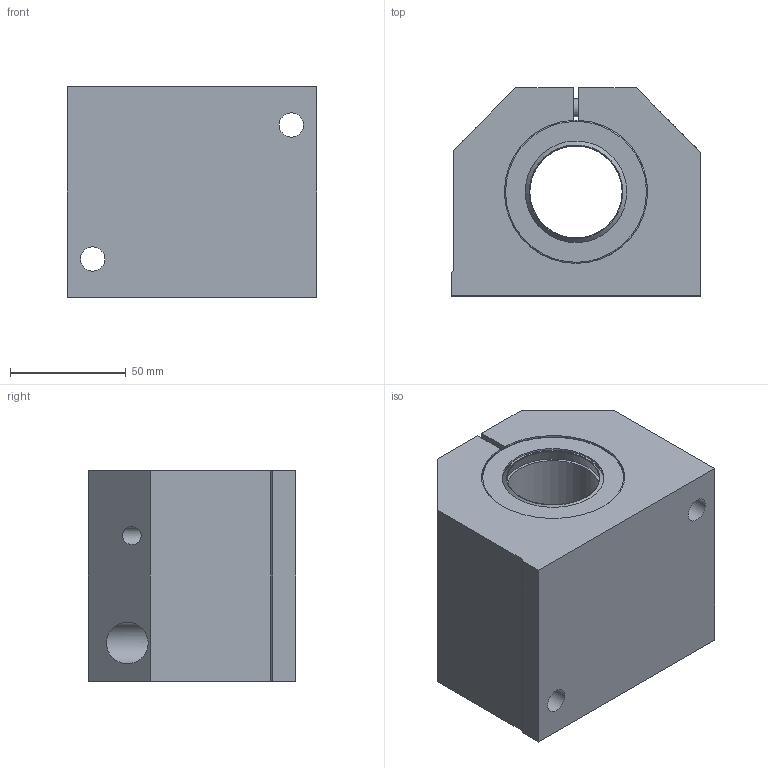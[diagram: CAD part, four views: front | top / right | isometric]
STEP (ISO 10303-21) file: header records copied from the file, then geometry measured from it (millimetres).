
FILE_DESCRIPTION(('STEP AP203'),'1');
FILE_NAME('//192.168.1.1/share/s-4 技術開発/s-4-4_CAD/s-4-4-3_見直し済み/008 修正済み/SLS(済)/SLS_TOP/SLS-40.step','2022-03-09T07:10:38',(' '),(' '),'Spatial InterOp 3D',' ',' ');
FILE_SCHEMA(('CONFIG_CONTROL_DESIGN'));
Length unit declared in the file: millimetre
Products named in the file (1): 1
Bounding box: 108 x 90 x 91 mm (x, y, z)
Volume: 657315.1 mm3; surface area: 78800 mm2
Topology: 1 solids, 1 shells, 91 faces, 208 edges, 131 vertices
Faces by surface type: plane 41, cylinder 33, cone 9, torus 8
Full cylindrical faces by diameter (mm): 7 x2, 8 x4, 9 x1, 10.5 x4, 13 x1, 15 x1, 18 x2, 40 x3, 44 x2, 58.5 x2
Entity records: 2328 total; most frequent: DIRECTION 414, CARTESIAN_POINT 394, ORIENTED_EDGE 304, AXIS2_PLACEMENT_3D 171, EDGE_LOOP 158, EDGE_CURVE 152, FACE_OUTER_BOUND 121, VERTEX_POINT 117
